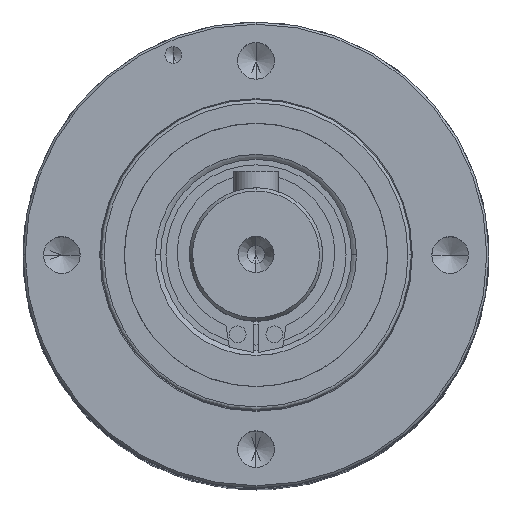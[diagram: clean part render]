
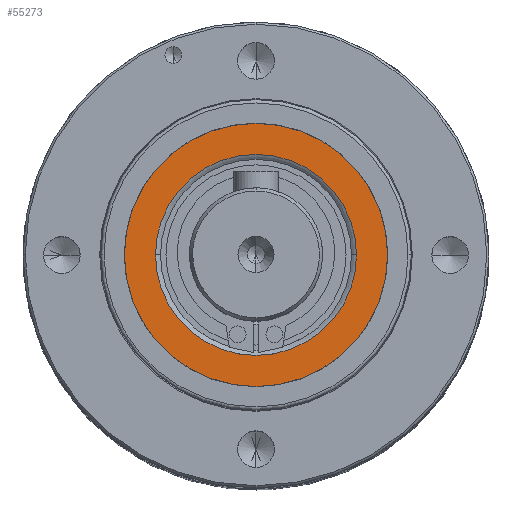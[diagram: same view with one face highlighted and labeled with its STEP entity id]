
A CAD part, top view. The second image highlights one B-rep face of the part: STEP entity #55273.
In plain terms, the highlighted planar face has unit normal (0, 0, 1).
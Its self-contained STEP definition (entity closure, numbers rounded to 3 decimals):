
#431 = CARTESIAN_POINT ( 'NONE',  ( -3.929, -8.599, 123.885 ) ) ;
#1394 = DIRECTION ( 'NONE',  ( 0., 0., 1. ) ) ;
#3648 = CARTESIAN_POINT ( 'NONE',  ( 16.996, -8.599, 123.885 ) ) ;
#4040 = DIRECTION ( 'NONE',  ( 0., 0., -1. ) ) ;
#4840 = AXIS2_PLACEMENT_3D ( 'NONE', #77393, #1394, #14310 ) ;
#12783 = DIRECTION ( 'NONE',  ( 0., 0., -1. ) ) ;
#14310 = DIRECTION ( 'NONE',  ( 1., 0., 0. ) ) ;
#14793 = VERTEX_POINT ( 'NONE', #3648 ) ;
#15980 = CARTESIAN_POINT ( 'NONE',  ( 5.131, -8.599, 123.885 ) ) ;
#20719 = CIRCLE ( 'NONE', #4840, 11.865 ) ;
#26567 = EDGE_CURVE ( 'NONE', #14793, #35697, #20719, .T. ) ;
#26710 = EDGE_LOOP ( 'NONE', ( #73513, #71643 ) ) ;
#28025 = AXIS2_PLACEMENT_3D ( 'NONE', #73438, #4040, #36428 ) ;
#28990 = FACE_BOUND ( 'NONE', #26710, .T. ) ;
#29282 = DIRECTION ( 'NONE',  ( 1., 0., 0. ) ) ;
#35501 = CARTESIAN_POINT ( 'NONE',  ( 5.131, -8.599, 123.885 ) ) ;
#35697 = VERTEX_POINT ( 'NONE', #53959 ) ;
#36428 = DIRECTION ( 'NONE',  ( 0., 1., 0. ) ) ;
#38141 = AXIS2_PLACEMENT_3D ( 'NONE', #82083, #12783, #63392 ) ;
#41835 = PLANE ( 'NONE',  #28025 ) ;
#42246 = FACE_OUTER_BOUND ( 'NONE', #70244, .T. ) ;
#42502 = ORIENTED_EDGE ( 'NONE', *, *, #26567, .T. ) ;
#46772 = CIRCLE ( 'NONE', #67975, 11.865 ) ;
#49437 = CIRCLE ( 'NONE', #65255, 9.06 ) ;
#52892 = DIRECTION ( 'NONE',  ( 1., 0., 0. ) ) ;
#53345 = EDGE_CURVE ( 'NONE', #58541, #56754, #54090, .T. ) ;
#53959 = CARTESIAN_POINT ( 'NONE',  ( -6.734, -8.599, 123.885 ) ) ;
#54090 = CIRCLE ( 'NONE', #38141, 9.06 ) ;
#55273 = ADVANCED_FACE ( 'NONE', ( #28990, #42246 ), #41835, .F. ) ;
#56754 = VERTEX_POINT ( 'NONE', #431 ) ;
#58541 = VERTEX_POINT ( 'NONE', #76157 ) ;
#60335 = DIRECTION ( 'NONE',  ( 0., 0., 1. ) ) ;
#60484 = ORIENTED_EDGE ( 'NONE', *, *, #81109, .F. ) ;
#60833 = DIRECTION ( 'NONE',  ( 0., 0., -1. ) ) ;
#63392 = DIRECTION ( 'NONE',  ( 1., 0., 0. ) ) ;
#65255 = AXIS2_PLACEMENT_3D ( 'NONE', #15980, #60335, #52892 ) ;
#67975 = AXIS2_PLACEMENT_3D ( 'NONE', #35501, #60833, #29282 ) ;
#70244 = EDGE_LOOP ( 'NONE', ( #60484, #42502 ) ) ;
#71643 = ORIENTED_EDGE ( 'NONE', *, *, #53345, .T. ) ;
#73438 = CARTESIAN_POINT ( 'NONE',  ( 5.131, -8.599, 123.885 ) ) ;
#73513 = ORIENTED_EDGE ( 'NONE', *, *, #74569, .F. ) ;
#74569 = EDGE_CURVE ( 'NONE', #58541, #56754, #49437, .T. ) ;
#76157 = CARTESIAN_POINT ( 'NONE',  ( 14.191, -8.599, 123.885 ) ) ;
#77393 = CARTESIAN_POINT ( 'NONE',  ( 5.131, -8.599, 123.885 ) ) ;
#81109 = EDGE_CURVE ( 'NONE', #14793, #35697, #46772, .T. ) ;
#82083 = CARTESIAN_POINT ( 'NONE',  ( 5.131, -8.599, 123.885 ) ) ;
